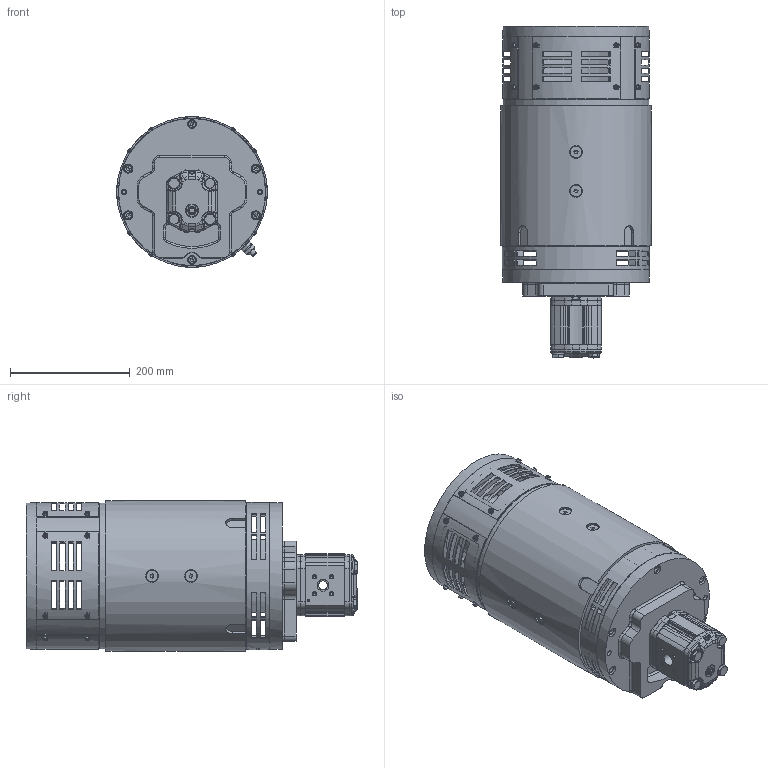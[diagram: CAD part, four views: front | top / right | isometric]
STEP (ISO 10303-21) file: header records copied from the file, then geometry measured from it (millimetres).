
FILE_DESCRIPTION(/* description */ (''),/* implementation_level */ '2;1');
FILE_NAME(/* name */ 'Z:\SITO WEB 2023\Elettropompe\Elettropompe DC\D.244 mm\MP244.Catalogo.stp',/* time_stamp */ '2023-09-19T10:47:31+02:00',/* author */ ('cad3'),/* organization */ (''),/* preprocessor_version */ 'ST-DEVELOPER v18.1',/* originating_system */ 'Autodesk Inventor 2022',/* authorisation */ '');
FILE_SCHEMA (('AUTOMOTIVE_DESIGN { 1 0 10303 214 3 1 1 }'));
Products named in the file (1): MP244.Catalogo
Bounding box: 251 x 553.2 x 251 mm (x, y, z)
Volume: 6333718 mm3; surface area: 1033617.4 mm2
Topology: 2 solids, 27 shells, 2534 faces, 6234 edges, 3887 vertices
Faces by surface type: plane 1102, cylinder 691, cone 334, torus 237, bspline 162, sphere 8
Full cylindrical faces by diameter (mm): 3.242 x2, 3.545 x16, 4 x9, 4.3 x16, 4.917 x8, 5.35 x8, 5.5 x1, 6 x6, 6.5 x12, 6.647 x8, 7 x16, 8 x22, 8.376 x6, 8.5 x2, 8.6 x2, 9 x8, 10 x20, 10.5 x18, 11 x8, 11.5 x2, 11.57 x4, 12 x2, 12.4 x4, 13 x6, 14 x10, 14.63 x2, 14.701 x1, 15 x9, 15.6 x2, 18 x5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
Entity records: 89150 total; most frequent: CARTESIAN_POINT 26865, DIRECTION 12692, ORIENTED_EDGE 12330, EDGE_CURVE 6165, AXIS2_PLACEMENT_3D 4977, VERTEX_POINT 3869, EDGE_LOOP 2950, LINE 2738
